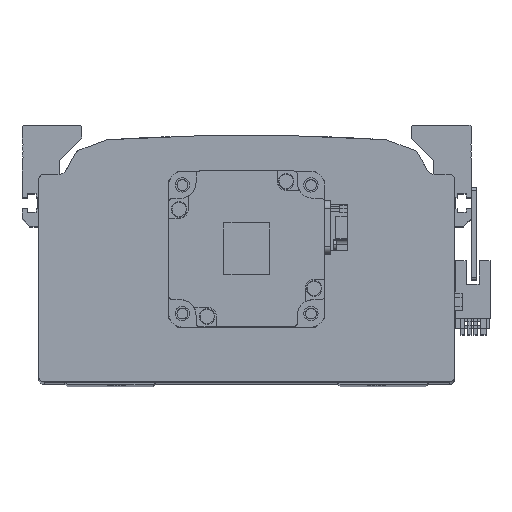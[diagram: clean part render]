
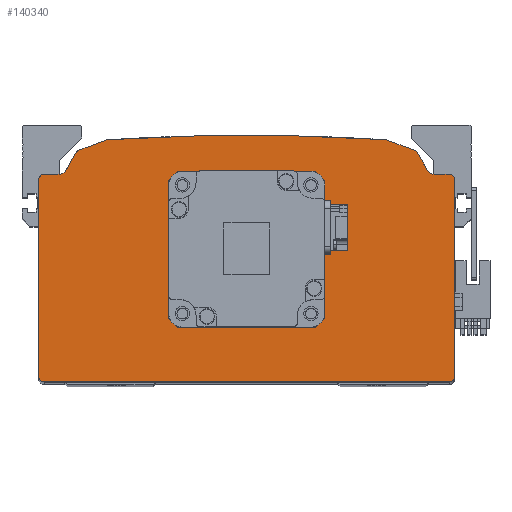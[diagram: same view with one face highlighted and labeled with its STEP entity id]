
A CAD part, top view. The second image highlights one B-rep face of the part: STEP entity #140340.
In plain terms, the highlighted planar face has unit normal (0, 0, 1).
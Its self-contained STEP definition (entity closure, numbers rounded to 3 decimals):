
#131250=CARTESIAN_POINT('',(-25.,0.,15.));
#131260=VERTEX_POINT('',#131250);
#131420=CARTESIAN_POINT('',(25.,0.,15.));
#131430=VERTEX_POINT('',#131420);
#131460=CARTESIAN_POINT('',(0.,0.,15.));
#131470=DIRECTION('',(0.,0.,1.));
#131480=DIRECTION('',(1.,0.,0.));
#131490=AXIS2_PLACEMENT_3D('',#131460,#131470,#131480);
#131500=CIRCLE('',#131490,25.);
#131510=EDGE_CURVE('',#131260,#131430,#131500,.T.);
#131670=CARTESIAN_POINT('',(-26.849,24.749,15.));
#131680=VERTEX_POINT('',#131670);
#131840=CARTESIAN_POINT('',(-22.649,24.749,15.));
#131850=VERTEX_POINT('',#131840);
#131880=CARTESIAN_POINT('',(-24.749,24.749,15.));
#131890=DIRECTION('',(-0.,-0.,1.));
#131900=DIRECTION('',(1.,0.,0.));
#131910=AXIS2_PLACEMENT_3D('',#131880,#131890,#131900);
#131920=CIRCLE('',#131910,2.1);
#131930=EDGE_CURVE('',#131680,#131850,#131920,.T.);
#132090=CARTESIAN_POINT('',(-26.849,-24.749,15.));
#132100=VERTEX_POINT('',#132090);
#132260=CARTESIAN_POINT('',(-22.649,-24.749,15.));
#132270=VERTEX_POINT('',#132260);
#132300=CARTESIAN_POINT('',(-24.749,-24.749,15.));
#132310=DIRECTION('',(-0.,-0.,1.));
#132320=DIRECTION('',(1.,0.,0.));
#132330=AXIS2_PLACEMENT_3D('',#132300,#132310,#132320);
#132340=CIRCLE('',#132330,2.1);
#132350=EDGE_CURVE('',#132100,#132270,#132340,.T.);
#132510=CARTESIAN_POINT('',(26.849,-24.749,15.));
#132520=VERTEX_POINT('',#132510);
#132680=CARTESIAN_POINT('',(22.649,-24.749,15.));
#132690=VERTEX_POINT('',#132680);
#132720=CARTESIAN_POINT('',(24.749,-24.749,15.));
#132730=DIRECTION('',(-0.,-0.,1.));
#132740=DIRECTION('',(1.,0.,0.));
#132750=AXIS2_PLACEMENT_3D('',#132720,#132730,#132740);
#132760=CIRCLE('',#132750,2.1);
#132770=EDGE_CURVE('',#132520,#132690,#132760,.T.);
#132930=CARTESIAN_POINT('',(22.649,24.749,15.));
#132940=VERTEX_POINT('',#132930);
#133100=CARTESIAN_POINT('',(26.849,24.749,15.));
#133110=VERTEX_POINT('',#133100);
#133140=CARTESIAN_POINT('',(24.749,24.749,15.));
#133150=DIRECTION('',(-0.,-0.,1.));
#133160=DIRECTION('',(1.,0.,0.));
#133170=AXIS2_PLACEMENT_3D('',#133140,#133150,#133160);
#133180=CIRCLE('',#133170,2.1);
#133190=EDGE_CURVE('',#132940,#133110,#133180,.T.);
#133490=CARTESIAN_POINT('',(-80.,-49.,15.));
#133500=VERTEX_POINT('',#133490);
#133550=CARTESIAN_POINT('',(-78.,-49.,15.));
#133560=DIRECTION('',(0.,0.,1.));
#133570=DIRECTION('',(1.,0.,0.));
#133580=AXIS2_PLACEMENT_3D('',#133550,#133560,#133570);
#133590=CIRCLE('',#133580,2.);
#133600=CARTESIAN_POINT('',(-78.,-51.,15.));
#133610=VERTEX_POINT('',#133600);
#133620=EDGE_CURVE('',#133500,#133610,#133590,.T.);
#133880=CARTESIAN_POINT('',(-78.,-51.,15.));
#133890=DIRECTION('',(1.,0.,0.));
#133900=VECTOR('',#133890,1000.);
#133910=LINE('',#133880,#133900);
#133920=CARTESIAN_POINT('',(78.,-51.,15.));
#133930=VERTEX_POINT('',#133920);
#133940=EDGE_CURVE('',#133610,#133930,#133910,.T.);
#134190=CARTESIAN_POINT('',(78.,-49.,15.));
#134200=DIRECTION('',(0.,0.,1.));
#134210=DIRECTION('',(1.,0.,0.));
#134220=AXIS2_PLACEMENT_3D('',#134190,#134200,#134210);
#134230=CIRCLE('',#134220,2.);
#134240=CARTESIAN_POINT('',(80.,-49.,15.));
#134250=VERTEX_POINT('',#134240);
#134260=EDGE_CURVE('',#133930,#134250,#134230,.T.);
#134520=CARTESIAN_POINT('',(80.,27.,15.));
#134530=DIRECTION('',(-0.,1.,-0.));
#134540=VECTOR('',#134530,1000.);
#134550=LINE('',#134520,#134540);
#134560=CARTESIAN_POINT('',(80.,27.,15.));
#134570=VERTEX_POINT('',#134560);
#134580=EDGE_CURVE('',#134250,#134570,#134550,.T.);
#134830=CARTESIAN_POINT('',(78.,27.,15.));
#134840=DIRECTION('',(0.,0.,1.));
#134850=DIRECTION('',(1.,0.,0.));
#134860=AXIS2_PLACEMENT_3D('',#134830,#134840,#134850);
#134870=CIRCLE('',#134860,2.);
#134880=CARTESIAN_POINT('',(78.,29.,15.));
#134890=VERTEX_POINT('',#134880);
#134900=EDGE_CURVE('',#134570,#134890,#134870,.T.);
#135160=CARTESIAN_POINT('',(78.,29.,15.));
#135170=DIRECTION('',(-1.,0.,0.));
#135180=VECTOR('',#135170,1000.);
#135190=LINE('',#135160,#135180);
#135200=CARTESIAN_POINT('',(72.232,29.,15.));
#135210=VERTEX_POINT('',#135200);
#135220=EDGE_CURVE('',#134890,#135210,#135190,.T.);
#135470=CARTESIAN_POINT('',(72.232,32.,15.));
#135480=DIRECTION('',(-0.,-0.,-1.));
#135490=DIRECTION('',(1.,0.,0.));
#135500=AXIS2_PLACEMENT_3D('',#135470,#135480,#135490);
#135510=CIRCLE('',#135500,3.);
#135520=CARTESIAN_POINT('',(69.634,30.5,15.));
#135530=VERTEX_POINT('',#135520);
#135540=EDGE_CURVE('',#135210,#135530,#135510,.T.);
#135800=CARTESIAN_POINT('',(69.634,30.5,15.));
#135810=DIRECTION('',(-0.5,0.866,0.));
#135820=VECTOR('',#135810,1000.);
#135830=LINE('',#135800,#135820);
#135840=CARTESIAN_POINT('',(65.667,37.371,15.));
#135850=VERTEX_POINT('',#135840);
#135860=EDGE_CURVE('',#135530,#135850,#135830,.T.);
#136110=CARTESIAN_POINT('',(63.935,36.371,15.));
#136120=DIRECTION('',(0.,0.,1.));
#136130=DIRECTION('',(1.,0.,0.));
#136140=AXIS2_PLACEMENT_3D('',#136110,#136120,#136130);
#136150=CIRCLE('',#136140,2.);
#136160=CARTESIAN_POINT('',(64.622,38.249,15.));
#136170=VERTEX_POINT('',#136160);
#136180=EDGE_CURVE('',#135850,#136170,#136150,.T.);
#136440=CARTESIAN_POINT('',(53.884,42.176,15.));
#136450=DIRECTION('',(-0.939,0.343,-0.));
#136460=VECTOR('',#136450,1000.);
#136470=LINE('',#136440,#136460);
#136480=CARTESIAN_POINT('',(53.884,42.176,15.));
#136490=VERTEX_POINT('',#136480);
#136500=EDGE_CURVE('',#136170,#136490,#136470,.T.);
#136750=CARTESIAN_POINT('',(53.197,40.298,15.));
#136760=DIRECTION('',(0.,0.,1.));
#136770=DIRECTION('',(1.,0.,0.));
#136780=AXIS2_PLACEMENT_3D('',#136750,#136760,#136770);
#136790=CIRCLE('',#136780,2.);
#136800=CARTESIAN_POINT('',(53.325,42.294,15.));
#136810=VERTEX_POINT('',#136800);
#136820=EDGE_CURVE('',#136490,#136810,#136790,.T.);
#137080=CARTESIAN_POINT('',(0.,-790.108,15.))
;
#137090=DIRECTION('',(0.,0.,1.));
#137100=DIRECTION('',(1.,0.,0.));
#137110=AXIS2_PLACEMENT_3D('',#137080,#137090,#137100);
#137120=CIRCLE('',#137110,834.108);
#137130=CARTESIAN_POINT('',(-53.325,42.294,15.));
#137140=VERTEX_POINT('',#137130);
#137150=EDGE_CURVE('',#136810,#137140,#137120,.T.);
#137410=CARTESIAN_POINT('',(-53.197,40.298,15.));
#137420=DIRECTION('',(0.,0.,1.));
#137430=DIRECTION('',(1.,0.,0.));
#137440=AXIS2_PLACEMENT_3D('',#137410,#137420,#137430);
#137450=CIRCLE('',#137440,2.);
#137460=CARTESIAN_POINT('',(-53.884,42.176,15.));
#137470=VERTEX_POINT('',#137460);
#137480=EDGE_CURVE('',#137140,#137470,#137450,.T.);
#137740=CARTESIAN_POINT('',(-53.884,42.176,15.));
#137750=DIRECTION('',(-0.939,-0.343,0.));
#137760=VECTOR('',#137750,1000.);
#137770=LINE('',#137740,#137760);
#137780=CARTESIAN_POINT('',(-64.622,38.249,15.));
#137790=VERTEX_POINT('',#137780);
#137800=EDGE_CURVE('',#137470,#137790,#137770,.T.);
#138050=CARTESIAN_POINT('',(-63.935,36.371,15.));
#138060=DIRECTION('',(0.,0.,1.));
#138070=DIRECTION('',(1.,0.,0.));
#138080=AXIS2_PLACEMENT_3D('',#138050,#138060,#138070);
#138090=CIRCLE('',#138080,2.);
#138100=CARTESIAN_POINT('',(-65.667,37.371,15.));
#138110=VERTEX_POINT('',#138100);
#138120=EDGE_CURVE('',#137790,#138110,#138090,.T.);
#138380=CARTESIAN_POINT('',(-69.634,30.5,15.));
#138390=DIRECTION('',(-0.5,-0.866,-0.));
#138400=VECTOR('',#138390,1000.);
#138410=LINE('',#138380,#138400);
#138420=CARTESIAN_POINT('',(-69.634,30.5,15.));
#138430=VERTEX_POINT('',#138420);
#138440=EDGE_CURVE('',#138110,#138430,#138410,.T.);
#138690=CARTESIAN_POINT('',(-72.232,32.,15.));
#138700=DIRECTION('',(-0.,-0.,-1.));
#138710=DIRECTION('',(1.,0.,0.));
#138720=AXIS2_PLACEMENT_3D('',#138690,#138700,#138710);
#138730=CIRCLE('',#138720,3.);
#138740=CARTESIAN_POINT('',(-72.232,29.,15.));
#138750=VERTEX_POINT('',#138740);
#138760=EDGE_CURVE('',#138430,#138750,#138730,.T.);
#139020=CARTESIAN_POINT('',(-78.,29.,15.));
#139030=DIRECTION('',(-1.,-0.,-0.));
#139040=VECTOR('',#139030,1000.);
#139050=LINE('',#139020,#139040);
#139060=CARTESIAN_POINT('',(-78.,29.,15.));
#139070=VERTEX_POINT('',#139060);
#139080=EDGE_CURVE('',#138750,#139070,#139050,.T.);
#139330=CARTESIAN_POINT('',(-78.,27.,15.));
#139340=DIRECTION('',(0.,0.,1.));
#139350=DIRECTION('',(1.,0.,0.));
#139360=AXIS2_PLACEMENT_3D('',#139330,#139340,#139350);
#139370=CIRCLE('',#139360,2.);
#139380=CARTESIAN_POINT('',(-80.,27.,15.));
#139390=VERTEX_POINT('',#139380);
#139400=EDGE_CURVE('',#139070,#139390,#139370,.T.);
#139660=CARTESIAN_POINT('',(-80.,27.,15.));
#139670=DIRECTION('',(0.,-1.,0.));
#139680=VECTOR('',#139670,1000.);
#139690=LINE('',#139660,#139680);
#139700=EDGE_CURVE('',#139390,#133500,#139690,.T.);
#139820=CARTESIAN_POINT('',(-78.,-49.,15.));
#139830=DIRECTION('',(0.,0.,1.));
#139840=DIRECTION('',(1.,0.,-0.));
#139850=AXIS2_PLACEMENT_3D('',#139820,#139830,#139840);
#139860=PLANE('',#139850);
#139870=EDGE_CURVE('',#131430,#131260,#131500,.T.);
#139880=ORIENTED_EDGE('',*,*,#139870,.F.);
#139890=ORIENTED_EDGE('',*,*,#131510,.F.);
#139900=EDGE_LOOP('',(#139890,#139880));
#139910=FACE_BOUND('',#139900,.T.);
#139920=EDGE_CURVE('',#131850,#131680,#131920,.T.);
#139930=ORIENTED_EDGE('',*,*,#139920,.F.);
#139940=ORIENTED_EDGE('',*,*,#131930,.F.);
#139950=EDGE_LOOP('',(#139940,#139930));
#139960=FACE_BOUND('',#139950,.T.);
#139970=EDGE_CURVE('',#132270,#132100,#132340,.T.);
#139980=ORIENTED_EDGE('',*,*,#139970,.F.);
#139990=ORIENTED_EDGE('',*,*,#132350,.F.);
#140000=EDGE_LOOP('',(#139990,#139980));
#140010=FACE_BOUND('',#140000,.T.);
#140020=EDGE_CURVE('',#132690,#132520,#132760,.T.);
#140030=ORIENTED_EDGE('',*,*,#140020,.F.);
#140040=ORIENTED_EDGE('',*,*,#132770,.F.);
#140050=EDGE_LOOP('',(#140040,#140030));
#140060=FACE_BOUND('',#140050,.T.);
#140070=EDGE_CURVE('',#133110,#132940,#133180,.T.);
#140080=ORIENTED_EDGE('',*,*,#140070,.F.);
#140090=ORIENTED_EDGE('',*,*,#133190,.F.);
#140100=EDGE_LOOP('',(#140090,#140080));
#140110=FACE_BOUND('',#140100,.T.);
#140120=ORIENTED_EDGE('',*,*,#139700,.T.);
#140130=ORIENTED_EDGE('',*,*,#139400,.T.);
#140140=ORIENTED_EDGE('',*,*,#139080,.T.);
#140150=ORIENTED_EDGE('',*,*,#138760,.T.);
#140160=ORIENTED_EDGE('',*,*,#138440,.T.);
#140170=ORIENTED_EDGE('',*,*,#138120,.T.);
#140180=ORIENTED_EDGE('',*,*,#137800,.T.);
#140190=ORIENTED_EDGE('',*,*,#137480,.T.);
#140200=ORIENTED_EDGE('',*,*,#137150,.T.);
#140210=ORIENTED_EDGE('',*,*,#136820,.T.);
#140220=ORIENTED_EDGE('',*,*,#136500,.T.);
#140230=ORIENTED_EDGE('',*,*,#136180,.T.);
#140240=ORIENTED_EDGE('',*,*,#135860,.T.);
#140250=ORIENTED_EDGE('',*,*,#135540,.T.);
#140260=ORIENTED_EDGE('',*,*,#135220,.T.);
#140270=ORIENTED_EDGE('',*,*,#134900,.T.);
#140280=ORIENTED_EDGE('',*,*,#134580,.T.);
#140290=ORIENTED_EDGE('',*,*,#134260,.T.);
#140300=ORIENTED_EDGE('',*,*,#133940,.T.);
#140310=ORIENTED_EDGE('',*,*,#133620,.T.);
#140320=EDGE_LOOP('',(#140310,#140300,#140290,#140280,#140270,#140260,
#140250,#140240,#140230,#140220,#140210,#140200,#140190,#140180,#140170,
#140160,#140150,#140140,#140130,#140120));
#140330=FACE_OUTER_BOUND('',#140320,.T.);
#140340=ADVANCED_FACE('',(#139910,#139960,#140010,#140060,#140110,
#140330),#139860,.T.);
